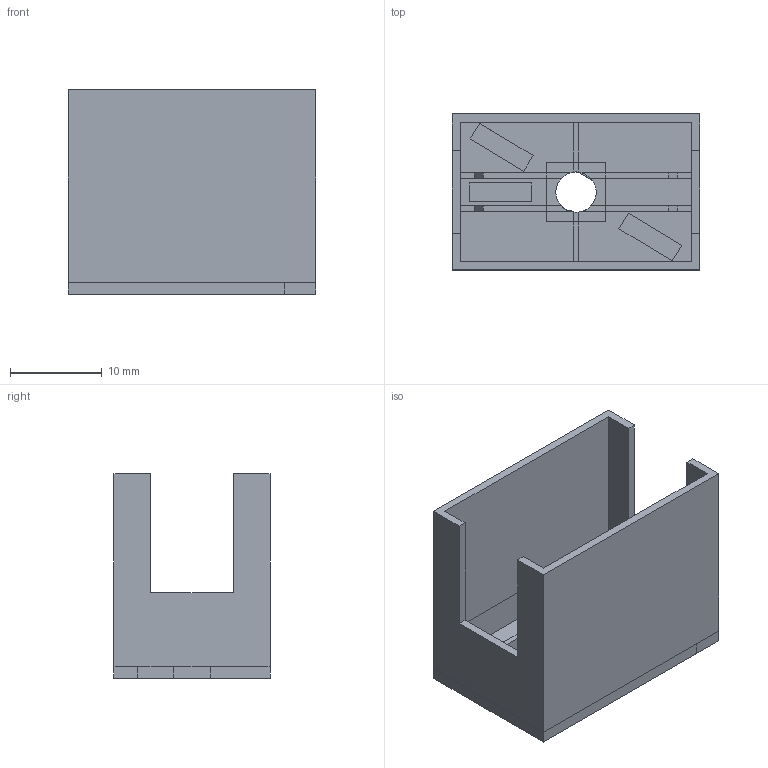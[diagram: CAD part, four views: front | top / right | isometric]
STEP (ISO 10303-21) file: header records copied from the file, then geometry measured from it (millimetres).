
FILE_DESCRIPTION(('FreeCAD Model'),'2;1');
FILE_NAME('Open CASCADE Shape Model','2025-03-09T22:48:34',(''),(''), 'Open CASCADE STEP processor 7.8','FreeCAD','Unknown');
FILE_SCHEMA(('AUTOMOTIVE_DESIGN { 1 0 10303 214 1 1 1 1 }'));
Length unit declared in the file: millimetre
Products named in the file (7): Weiche_diagonal; Body; Fahrstrasse_1; Fahrstrasse_2; Ausleuchtung_1; Ausleuchtung_2; Ausleuchtung_3
Assembly tree (6 placements, depth 2):
  Weiche_diagonal
    Body
    Fahrstrasse_1
    Fahrstrasse_2
    Ausleuchtung_1
    Ausleuchtung_2
    Ausleuchtung_3
Bounding box: 27 x 17 x 22.3 mm (x, y, z)
Volume: 2376.5 mm3; surface area: 4941.2 mm2
Topology: 6 solids, 6 shells, 161 faces, 403 edges, 252 vertices
Faces by surface type: plane 158, cylinder 3
Full cylindrical faces by diameter (mm): 4.4 x1
Entity records: 4860 total; most frequent: CARTESIAN_POINT 823, ORIENTED_EDGE 806, DIRECTION 763, EDGE_CURVE 403, LINE 379, VECTOR 379, VERTEX_POINT 252, AXIS2_PLACEMENT_3D 192
